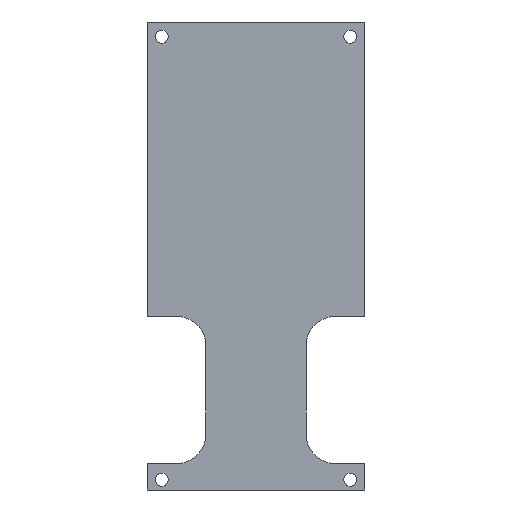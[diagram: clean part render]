
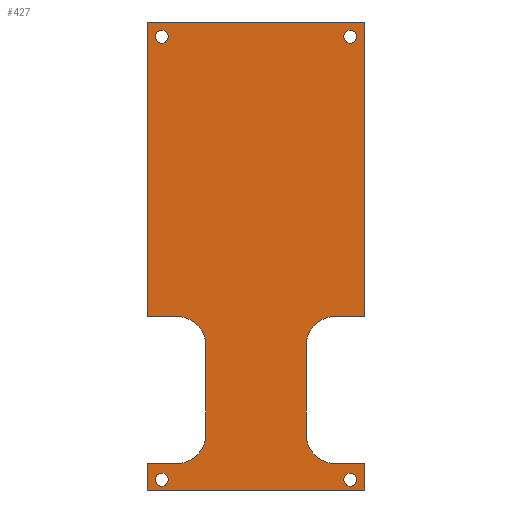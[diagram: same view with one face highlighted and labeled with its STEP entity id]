
A CAD part, left-side view. The second image highlights one B-rep face of the part: STEP entity #427.
In plain terms, the highlighted planar face has unit normal (-1, 0, 0).
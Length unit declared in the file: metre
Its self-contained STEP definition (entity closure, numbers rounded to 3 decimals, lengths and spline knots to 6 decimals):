
#12=CIRCLE('',#447,0.005);
#14=CIRCLE('',#451,0.005);
#16=CIRCLE('',#459,0.005);
#19=CIRCLE('',#464,0.0011);
#21=CIRCLE('',#467,0.0011);
#23=CIRCLE('',#470,0.0011);
#24=CIRCLE('',#472,0.005);
#27=CIRCLE('',#476,0.0011);
#128=ORIENTED_EDGE('',*,*,#148,.T.);
#129=ORIENTED_EDGE('',*,*,#200,.T.);
#130=ORIENTED_EDGE('',*,*,#191,.F.);
#131=ORIENTED_EDGE('',*,*,#188,.T.);
#132=ORIENTED_EDGE('',*,*,#185,.F.);
#133=ORIENTED_EDGE('',*,*,#182,.F.);
#134=ORIENTED_EDGE('',*,*,#179,.T.);
#135=ORIENTED_EDGE('',*,*,#176,.T.);
#136=ORIENTED_EDGE('',*,*,#173,.F.);
#137=ORIENTED_EDGE('',*,*,#170,.T.);
#138=ORIENTED_EDGE('',*,*,#167,.T.);
#139=ORIENTED_EDGE('',*,*,#164,.T.);
#140=ORIENTED_EDGE('',*,*,#161,.F.);
#141=ORIENTED_EDGE('',*,*,#158,.T.);
#142=ORIENTED_EDGE('',*,*,#155,.F.);
#143=ORIENTED_EDGE('',*,*,#152,.F.);
#144=ORIENTED_EDGE('',*,*,#199,.T.);
#145=ORIENTED_EDGE('',*,*,#197,.F.);
#146=ORIENTED_EDGE('',*,*,#195,.F.);
#147=ORIENTED_EDGE('',*,*,#203,.T.);
#148=EDGE_CURVE('',#204,#205,#244,.T.);
#152=EDGE_CURVE('',#204,#208,#248,.T.);
#155=EDGE_CURVE('',#208,#210,#251,.T.);
#158=EDGE_CURVE('',#212,#210,#254,.T.);
#161=EDGE_CURVE('',#212,#214,#257,.T.);
#164=EDGE_CURVE('',#216,#214,#12,.T.);
#167=EDGE_CURVE('',#218,#216,#261,.T.);
#170=EDGE_CURVE('',#220,#218,#14,.T.);
#173=EDGE_CURVE('',#220,#222,#265,.T.);
#176=EDGE_CURVE('',#224,#222,#268,.T.);
#179=EDGE_CURVE('',#226,#224,#271,.T.);
#182=EDGE_CURVE('',#226,#228,#274,.T.);
#185=EDGE_CURVE('',#228,#230,#277,.T.);
#188=EDGE_CURVE('',#232,#230,#16,.T.);
#191=EDGE_CURVE('',#232,#234,#281,.T.);
#195=EDGE_CURVE('',#237,#237,#19,.T.);
#197=EDGE_CURVE('',#239,#239,#21,.T.);
#199=EDGE_CURVE('',#241,#241,#23,.T.);
#200=EDGE_CURVE('',#205,#234,#24,.T.);
#203=EDGE_CURVE('',#243,#243,#27,.T.);
#204=VERTEX_POINT('',#600);
#205=VERTEX_POINT('',#601);
#208=VERTEX_POINT('',#609);
#210=VERTEX_POINT('',#615);
#212=VERTEX_POINT('',#621);
#214=VERTEX_POINT('',#627);
#216=VERTEX_POINT('',#633);
#218=VERTEX_POINT('',#639);
#220=VERTEX_POINT('',#645);
#222=VERTEX_POINT('',#651);
#224=VERTEX_POINT('',#657);
#226=VERTEX_POINT('',#663);
#228=VERTEX_POINT('',#669);
#230=VERTEX_POINT('',#675);
#232=VERTEX_POINT('',#681);
#234=VERTEX_POINT('',#687);
#237=VERTEX_POINT('',#695);
#239=VERTEX_POINT('',#700);
#241=VERTEX_POINT('',#705);
#243=VERTEX_POINT('',#713);
#244=LINE('',#599,#284);
#248=LINE('',#608,#288);
#251=LINE('',#614,#291);
#254=LINE('',#620,#294);
#257=LINE('',#626,#297);
#261=LINE('',#638,#301);
#265=LINE('',#650,#305);
#268=LINE('',#656,#308);
#271=LINE('',#662,#311);
#274=LINE('',#668,#314);
#277=LINE('',#674,#317);
#281=LINE('',#686,#321);
#284=VECTOR('',#483,1.);
#288=VECTOR('',#489,1.);
#291=VECTOR('',#494,1.);
#294=VECTOR('',#499,1.);
#297=VECTOR('',#504,1.);
#301=VECTOR('',#516,1.);
#305=VECTOR('',#528,1.);
#308=VECTOR('',#533,1.);
#311=VECTOR('',#538,1.);
#314=VECTOR('',#543,1.);
#317=VECTOR('',#548,1.);
#321=VECTOR('',#560,1.);
#353=EDGE_LOOP('',(#128,#129,#130,#131,#132,#133,#134,#135,#136,#137,#138,
#139,#140,#141,#142,#143));
#354=EDGE_LOOP('',(#144));
#355=EDGE_LOOP('',(#145));
#356=EDGE_LOOP('',(#146));
#357=EDGE_LOOP('',(#147));
#387=FACE_BOUND('',#353,.T.);
#388=FACE_BOUND('',#354,.T.);
#389=FACE_BOUND('',#355,.T.);
#390=FACE_BOUND('',#356,.T.);
#391=FACE_BOUND('',#357,.T.);
#405=PLANE('',#478);
#427=ADVANCED_FACE('',(#387,#388,#389,#390,#391),#405,.F.);
#447=AXIS2_PLACEMENT_3D('',#632,#509,#510);
#451=AXIS2_PLACEMENT_3D('',#644,#521,#522);
#459=AXIS2_PLACEMENT_3D('',#680,#553,#554);
#464=AXIS2_PLACEMENT_3D('',#694,#567,#568);
#467=AXIS2_PLACEMENT_3D('',#699,#573,#574);
#470=AXIS2_PLACEMENT_3D('',#704,#579,#580);
#472=AXIS2_PLACEMENT_3D('',#707,#583,#584);
#476=AXIS2_PLACEMENT_3D('',#712,#591,#592);
#478=AXIS2_PLACEMENT_3D('',#715,#595,#596);
#483=DIRECTION('',(0.,-1.,0.));
#489=DIRECTION('',(0.,0.,1.));
#494=DIRECTION('',(0.,-1.,0.));
#499=DIRECTION('',(0.,0.,1.));
#504=DIRECTION('',(0.,1.,0.));
#509=DIRECTION('',(1.,0.,0.));
#510=DIRECTION('',(0.,0.,-1.));
#516=DIRECTION('',(0.,0.,1.));
#521=DIRECTION('',(1.,0.,0.));
#522=DIRECTION('',(0.,0.,-1.));
#528=DIRECTION('',(0.,-1.,0.));
#533=DIRECTION('',(0.,0.,1.));
#538=DIRECTION('',(0.,-1.,0.));
#543=DIRECTION('',(0.,0.,1.));
#548=DIRECTION('',(0.,-1.,0.));
#553=DIRECTION('',(1.,0.,0.));
#554=DIRECTION('',(0.,0.,-1.));
#560=DIRECTION('',(0.,0.,1.));
#567=DIRECTION('',(-1.,0.,0.));
#568=DIRECTION('',(0.,0.,-1.));
#573=DIRECTION('',(-1.,0.,0.));
#574=DIRECTION('',(0.,0.,-1.));
#579=DIRECTION('',(1.,0.,0.));
#580=DIRECTION('',(0.,0.,-1.));
#583=DIRECTION('',(1.,0.,0.));
#584=DIRECTION('',(0.,0.,-1.));
#591=DIRECTION('',(1.,0.,0.));
#592=DIRECTION('',(0.,0.,-1.));
#595=DIRECTION('',(1.,0.,0.));
#596=DIRECTION('',(0.,1.,0.));
#599=CARTESIAN_POINT('',(0.,0.016,-0.01025));
#600=CARTESIAN_POINT('',(0.,0.0185,-0.01025));
#601=CARTESIAN_POINT('',(0.,0.0135,-0.01025));
#608=CARTESIAN_POINT('',(0.,0.0185,0.01225));
#609=CARTESIAN_POINT('',(0.,0.0185,0.03975));
#614=CARTESIAN_POINT('',(0.,0.,0.03975));
#615=CARTESIAN_POINT('',(0.,-0.0185,0.03975));
#620=CARTESIAN_POINT('',(0.,-0.0185,0.01225));
#621=CARTESIAN_POINT('',(0.,-0.0185,-0.01025));
#626=CARTESIAN_POINT('',(0.,-0.016,-0.01025));
#627=CARTESIAN_POINT('',(0.,-0.0135,-0.01025));
#632=CARTESIAN_POINT('',(0.,-0.0135,-0.01525));
#633=CARTESIAN_POINT('',(0.,-0.0085,-0.01525));
#638=CARTESIAN_POINT('',(0.,-0.0085,-0.02275));
#639=CARTESIAN_POINT('',(0.,-0.0085,-0.03025));
#644=CARTESIAN_POINT('',(0.,-0.0135,-0.03025));
#645=CARTESIAN_POINT('',(0.,-0.0135,-0.03525));
#650=CARTESIAN_POINT('',(0.,-0.016,-0.03525));
#651=CARTESIAN_POINT('',(0.,-0.0185,-0.03525));
#656=CARTESIAN_POINT('',(0.,-0.0185,-0.0375));
#657=CARTESIAN_POINT('',(0.,-0.0185,-0.03975));
#662=CARTESIAN_POINT('',(0.,0.016,-0.03975));
#663=CARTESIAN_POINT('',(0.,0.0185,-0.03975));
#668=CARTESIAN_POINT('',(0.,0.0185,-0.0375));
#669=CARTESIAN_POINT('',(0.,0.0185,-0.03525));
#674=CARTESIAN_POINT('',(0.,0.016,-0.03525));
#675=CARTESIAN_POINT('',(0.,0.0135,-0.03525));
#680=CARTESIAN_POINT('',(0.,0.0135,-0.03025));
#681=CARTESIAN_POINT('',(0.,0.0085,-0.03025));
#686=CARTESIAN_POINT('',(0.,0.0085,-0.02275));
#687=CARTESIAN_POINT('',(0.,0.0085,-0.01525));
#694=CARTESIAN_POINT('',(0.,-0.016,0.03725));
#695=CARTESIAN_POINT('',(0.,-0.016,0.03615));
#699=CARTESIAN_POINT('',(0.,-0.016,-0.038));
#700=CARTESIAN_POINT('',(0.,-0.016,-0.0391));
#704=CARTESIAN_POINT('',(0.,0.016,-0.038));
#705=CARTESIAN_POINT('',(0.,0.016,-0.0391));
#707=CARTESIAN_POINT('',(0.,0.0135,-0.01525));
#712=CARTESIAN_POINT('',(0.,0.016,0.03725));
#713=CARTESIAN_POINT('',(0.,0.016,0.03615));
#715=CARTESIAN_POINT('',(0.,0.,0.));
